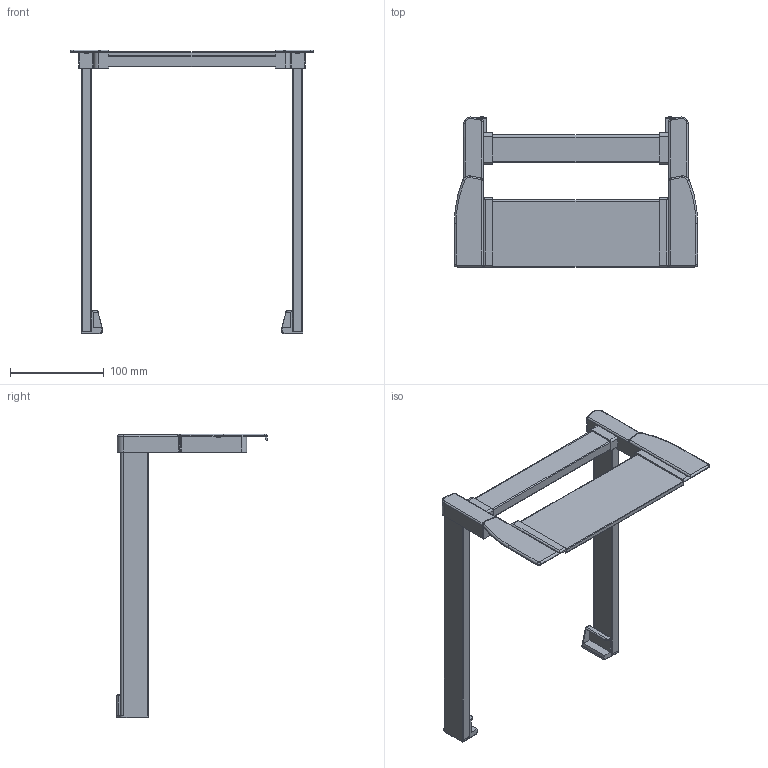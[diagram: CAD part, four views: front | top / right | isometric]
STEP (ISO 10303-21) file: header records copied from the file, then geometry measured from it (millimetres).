
FILE_DESCRIPTION (( 'STEP AP214' ), '1' );
FILE_NAME ('1_P620_NL 300_KAB 300_16er KS_.step', '2009-09-16T06:29:17', ( 'Waldinger Reinhard' ), ( 'Grass GmbH' ), 'SwSTEP 2.0', 'SolidWorks 2009', '' );
FILE_SCHEMA (( 'AUTOMOTIVE_DESIGN' ));
Length unit declared in the file: millimetre
Products named in the file (1): 1_P620_NL 300_KAB 300_16er KS_
Bounding box: 259.6 x 160.5 x 302.8 mm (x, y, z)
Volume: 509522.6 mm3; surface area: 125648.3 mm2
Topology: 1 solids, 1 shells, 218 faces, 576 edges, 364 vertices
Faces by surface type: plane 97, cylinder 89, torus 28, sphere 2, bspline 2
Entity records: 6974 total; most frequent: CARTESIAN_POINT 1341, DIRECTION 1192, ORIENTED_EDGE 1148, EDGE_CURVE 574, AXIS2_PLACEMENT_3D 431, VERTEX_POINT 364, VECTOR 330, LINE 330
